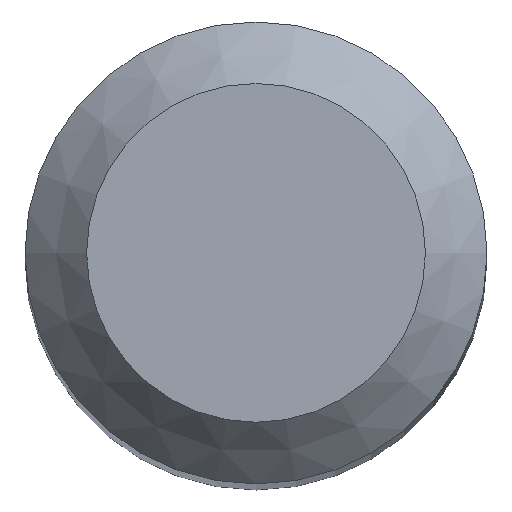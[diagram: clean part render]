
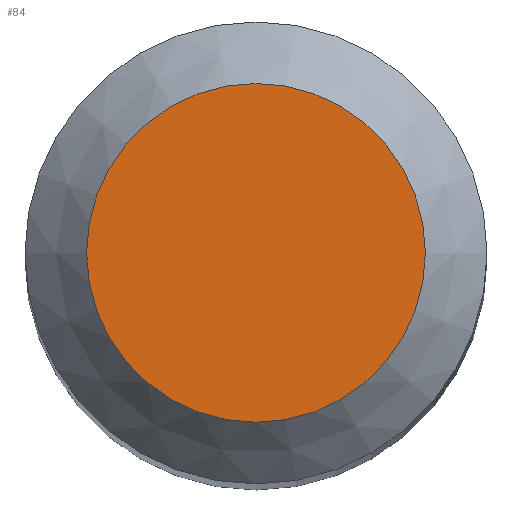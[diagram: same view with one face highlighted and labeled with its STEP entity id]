
A CAD part, top view. The second image highlights one B-rep face of the part: STEP entity #84.
In plain terms, the highlighted planar face has unit normal (0, 0, 1).
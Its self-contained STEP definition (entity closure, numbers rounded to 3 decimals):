
#68=CARTESIAN_POINT('',(2.2,0.0,59.0));
#69=DIRECTION('',(0.0,0.0,1.0));
#70=DIRECTION('',(1.0,0.0,0.0));
#71=AXIS2_PLACEMENT_3D('',#68,#69,#70);
#72=PLANE('',#71);
#73=CARTESIAN_POINT('',(-2.2,0.0,59.0));
#74=VERTEX_POINT('',#73);
#75=CARTESIAN_POINT('',(0.0,0.0,59.0));
#76=DIRECTION('',(0.0,0.0,-1.0));
#77=DIRECTION('',(-1.0,0.0,0.0));
#78=AXIS2_PLACEMENT_3D('',#75,#76,#77);
#79=CIRCLE('',#78,2.2);
#80=EDGE_CURVE('',#74,#74,#79,.T.);
#81=ORIENTED_EDGE('',*,*,#80,.F.);
#82=EDGE_LOOP('',(#81));
#83=FACE_OUTER_BOUND('',#82,.T.);
#84=ADVANCED_FACE('',(#83),#72,.T.);
